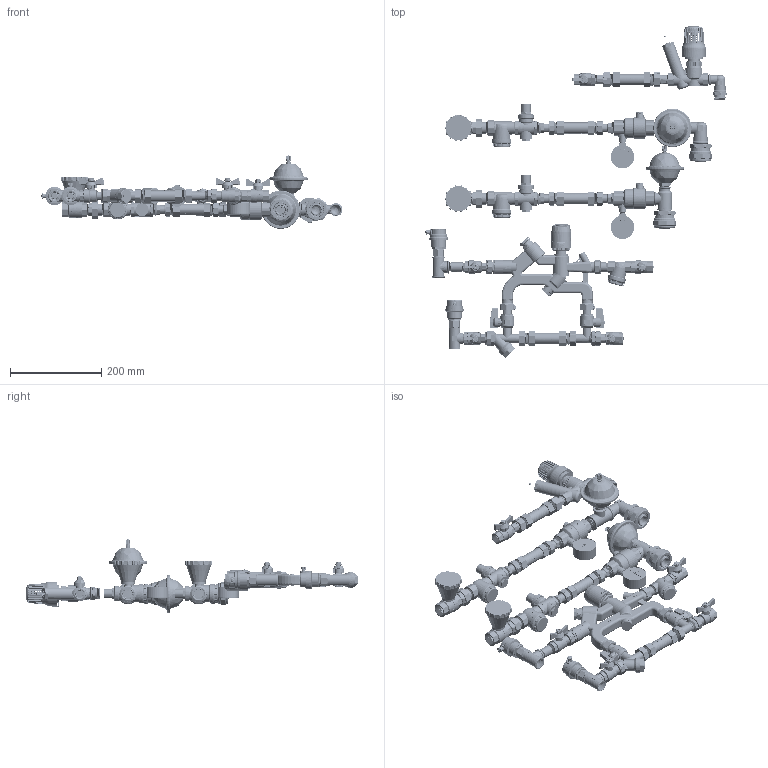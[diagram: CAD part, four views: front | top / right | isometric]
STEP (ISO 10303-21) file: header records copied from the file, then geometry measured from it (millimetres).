
FILE_DESCRIPTION(/* description */ (''),/* implementation_level */ '2;1');
FILE_NAME(/* name */ 'C:\Users\almis\Downloads\VT.NM.GFR.05.00.stp',/* time_stamp */ '2020-04-07T11:14:14+03:00',/* author */ ('BeN_GaN'),/* organization */ (''),/* preprocessor_version */ 'ST-DEVELOPER v18',/* originating_system */ 'Autodesk Inventor 2020',/* authorisation */ '');
FILE_SCHEMA (('AUTOMOTIVE_DESIGN { 1 0 10303 214 3 1 1 }'));
Products named in the file (38): VT.NM.F; Сборка0; Деталь1; Деталь2; Деталь3; Деталь4; Деталь5; VT.241.N.0405; VT.241.N.0405_02; VTr.613.04; VT.386.N.04; VT.215_ ВН_1%2; VTr.652.N.0406; Труба_025; VTr.132.N.0004; VT.539.N; VT.502.NH.04_1; VT.TE3041; Деталь6; VT.TM50.D_04; VT.CAR19.I; VT.214_ВВ_3%4; VTr.728.N.0005; VT.387.N.05; VT.086.N.05; VT.171.N.05; VTr.613.N.0505; VTr.132.RN.050504; VTr.651.N.0005; VTr.750.N.0504; VTr.092.N.0004; VTm.301.N.002605; VT.214_ВВ_1%2; VTr.611.N.0004; VT.348.N.04; VTr.092.N.0002; VTr.580.NE.040E; VTp.789.110.05
Assembly tree (60 placements, depth 3):
  VT.NM.F
    Сборка0
      Деталь1
      Деталь2
      Деталь3
      Деталь4  x2
      Деталь5  x2
    VTp.789.110.05  x4
    VT.241.N.0405  x3
    VT.241.N.0405_02  x3
    VTr.613.04
    VT.386.N.04
    VT.215_ ВН_1%2
    VTr.652.N.0406
    Труба_025
    VT.539.N  x2
    VT.502.NH.04_1  x2
    VTr.132.N.0004
    VT.TE3041
    Деталь6
    VT.TM50.D_04  x2
    VT.CAR19.I  x2
    VT.214_ВВ_3%4  x2
    VTr.728.N.0005  x2
    VT.387.N.05  x2
    VT.086.N.05  x2
    VT.171.N.05  x2
    VTr.613.N.0505  x4
    VTr.132.RN.050504
    VTr.651.N.0005
    VTr.750.N.0504
    VTr.092.N.0004
    VTm.301.N.002605  x2
    VT.214_ВВ_1%2
    VTr.611.N.0004  x2
    VT.348.N.04
    VTr.092.N.0002
    VTr.580.NE.040E
Bounding box: 660 x 727.67 x 161.49 mm (x, y, z)
Volume: 2062696.3 mm3; surface area: 1076892.3 mm2
Topology: 81 solids, 114 shells, 21674 faces, 57364 edges, 37298 vertices
Faces by surface type: plane 8501, cylinder 5747, bspline 4933, cone 1203, torus 1148, sphere 142
Full cylindrical faces by diameter (mm): 1 x2, 1.5 x2, 2 x15, 2.5 x3, 2.8 x2, 3 x3, 3.2 x1, 3.464 x2, 3.5 x2, 4 x11, 4.1 x1, 4.5 x45, 4.9 x2, 5 x6, 5.5 x52, 6 x5, 6.5 x72, 6.534 x3, 6.6 x4, 6.7 x4, 7 x2, 7.4 x1, 7.5 x37, 7.6 x22, 7.8 x1, 7.953 x2, 8 x37, 8.3 x27, 8.5 x4, 9 x24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
Entity records: 647493 total; most frequent: CARTESIAN_POINT 335106, ORIENTED_EDGE 70536, DIRECTION 56380, EDGE_CURVE 35268, VERTEX_POINT 23028, AXIS2_PLACEMENT_3D 20558, LINE 15264, VECTOR 15264
